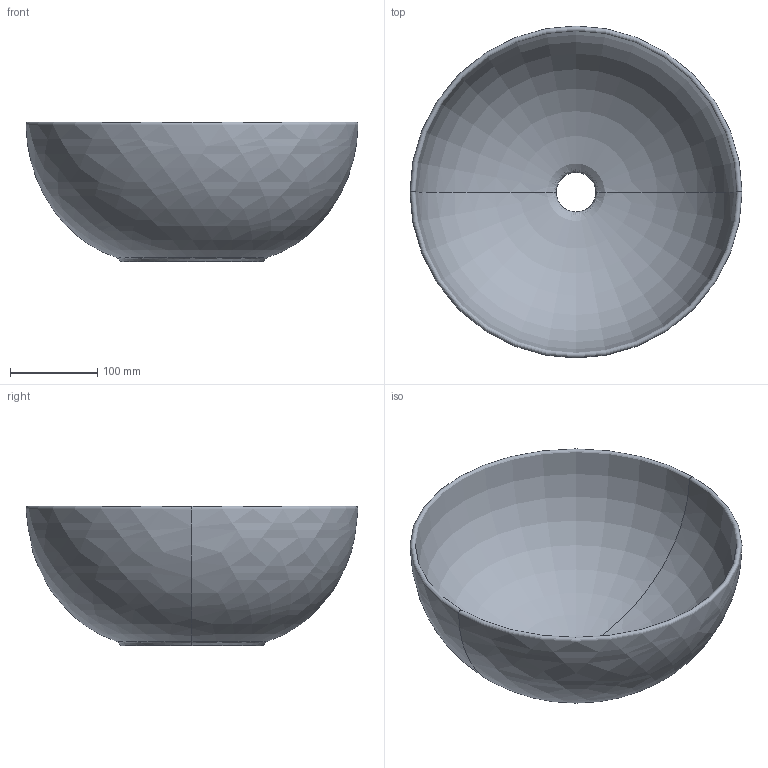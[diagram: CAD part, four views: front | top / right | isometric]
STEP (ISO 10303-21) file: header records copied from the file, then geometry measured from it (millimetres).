
FILE_DESCRIPTION(/* description */ (''),/* implementation_level */ '2;1');
FILE_NAME(/* name */ 'CIOTOL~1',/* time_stamp */ '2019-12-19T10:03:23+01:00',/* author */ (''),/* organization */ (''),/* preprocessor_version */ 'ST-DEVELOPER v16.5',/* originating_system */ '',/* authorisation */ '');
FILE_SCHEMA (('AUTOMOTIVE_DESIGN'));
Length unit declared in the file: millimetre
Products named in the file (1): Document
Bounding box: 380.02 x 380.02 x 160 mm (x, y, z)
Volume: 2370695.5 mm3; surface area: 412163.8 mm2
Topology: 1 solids, 1 shells, 6 faces, 12 edges, 6 vertices
Faces by surface type: bspline 6
Entity records: 403 total; most frequent: CARTESIAN_POINT 316, ORIENTED_EDGE 24, EDGE_CURVE 12, ADVANCED_FACE 6, FACE_OUTER_BOUND 6, EDGE_LOOP 6, VERTEX_POINT 6, DIRECTION 4
